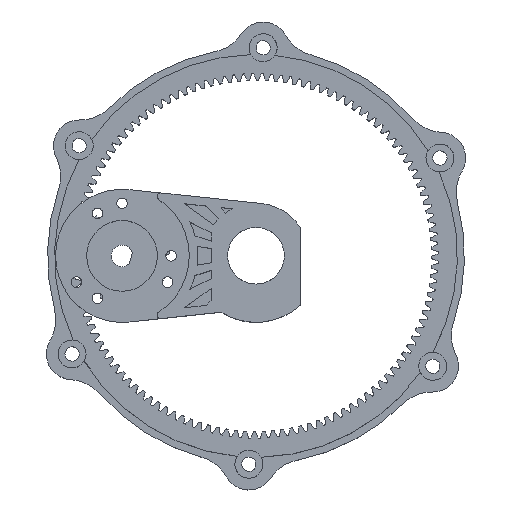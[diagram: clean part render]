
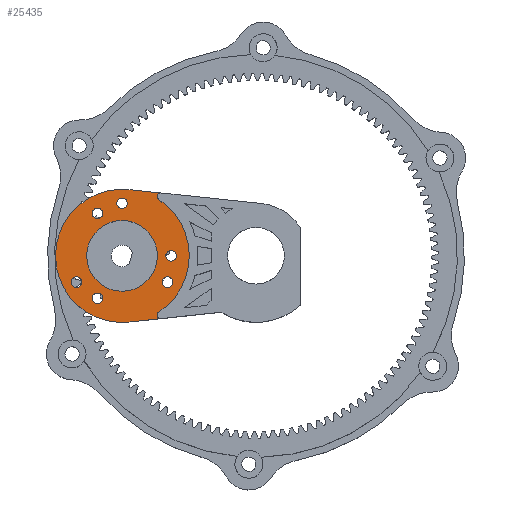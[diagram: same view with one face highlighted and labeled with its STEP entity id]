
A CAD part, top view. The second image highlights one B-rep face of the part: STEP entity #25435.
In plain terms, the highlighted planar face has unit normal (0, 0, 1) as drawn and (0, 0, -1) by its records, which use the part's own axes.
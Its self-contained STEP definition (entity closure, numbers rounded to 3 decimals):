
#2037=LINE('',#49288,#3429);
#2038=LINE('',#49291,#3430);
#3429=VECTOR('',#33060,10.);
#3430=VECTOR('',#33063,10.);
#4152=FACE_BOUND('',#8092,.T.);
#4153=FACE_BOUND('',#8093,.T.);
#4154=FACE_BOUND('',#8094,.T.);
#4155=FACE_BOUND('',#8095,.T.);
#4156=FACE_BOUND('',#8096,.T.);
#4157=FACE_BOUND('',#8097,.T.);
#4158=FACE_BOUND('',#8098,.T.);
#6724=FACE_OUTER_BOUND('',#8091,.T.);
#8091=EDGE_LOOP('',(#23947,#23948,#23949,#23950,#23951,#23952));
#8092=EDGE_LOOP('',(#23953));
#8093=EDGE_LOOP('',(#23954));
#8094=EDGE_LOOP('',(#23955));
#8095=EDGE_LOOP('',(#23956));
#8096=EDGE_LOOP('',(#23957));
#8097=EDGE_LOOP('',(#23958));
#8098=EDGE_LOOP('',(#23959));
#9443=CIRCLE('',#27531,1.);
#9445=CIRCLE('',#27534,19.2);
#9449=CIRCLE('',#27540,1.);
#9451=CIRCLE('',#27544,19.);
#9452=CIRCLE('',#27545,10.1);
#9453=CIRCLE('',#27546,1.5);
#9454=CIRCLE('',#27547,1.5);
#9455=CIRCLE('',#27548,1.5);
#9456=CIRCLE('',#27549,1.5);
#9457=CIRCLE('',#27550,1.5);
#9458=CIRCLE('',#27551,1.5);
#12083=VERTEX_POINT('',#49212);
#12084=VERTEX_POINT('',#49214);
#12086=VERTEX_POINT('',#49220);
#12092=VERTEX_POINT('',#49236);
#12098=VERTEX_POINT('',#49287);
#12099=VERTEX_POINT('',#49289);
#12100=VERTEX_POINT('',#49292);
#12101=VERTEX_POINT('',#49294);
#12102=VERTEX_POINT('',#49296);
#12103=VERTEX_POINT('',#49298);
#12104=VERTEX_POINT('',#49300);
#12105=VERTEX_POINT('',#49302);
#12106=VERTEX_POINT('',#49304);
#16039=EDGE_CURVE('',#12083,#12084,#9443,.F.);
#16043=EDGE_CURVE('',#12083,#12086,#9445,.T.);
#16051=EDGE_CURVE('',#12092,#12086,#9449,.F.);
#16058=EDGE_CURVE('',#12092,#12098,#2037,.T.);
#16059=EDGE_CURVE('',#12098,#12099,#9451,.T.);
#16060=EDGE_CURVE('',#12099,#12084,#2038,.T.);
#16061=EDGE_CURVE('',#12100,#12100,#9452,.T.);
#16062=EDGE_CURVE('',#12101,#12101,#9453,.T.);
#16063=EDGE_CURVE('',#12102,#12102,#9454,.T.);
#16064=EDGE_CURVE('',#12103,#12103,#9455,.T.);
#16065=EDGE_CURVE('',#12104,#12104,#9456,.T.);
#16066=EDGE_CURVE('',#12105,#12105,#9457,.T.);
#16067=EDGE_CURVE('',#12106,#12106,#9458,.T.);
#23947=ORIENTED_EDGE('',*,*,#16043,.T.);
#23948=ORIENTED_EDGE('',*,*,#16051,.F.);
#23949=ORIENTED_EDGE('',*,*,#16058,.T.);
#23950=ORIENTED_EDGE('',*,*,#16059,.T.);
#23951=ORIENTED_EDGE('',*,*,#16060,.T.);
#23952=ORIENTED_EDGE('',*,*,#16039,.F.);
#23953=ORIENTED_EDGE('',*,*,#16061,.T.);
#23954=ORIENTED_EDGE('',*,*,#16062,.T.);
#23955=ORIENTED_EDGE('',*,*,#16063,.T.);
#23956=ORIENTED_EDGE('',*,*,#16064,.T.);
#23957=ORIENTED_EDGE('',*,*,#16065,.T.);
#23958=ORIENTED_EDGE('',*,*,#16066,.T.);
#23959=ORIENTED_EDGE('',*,*,#16067,.T.);
#24106=PLANE('',#27543);
#25435=ADVANCED_FACE('',(#6724,#4152,#4153,#4154,#4155,#4156,#4157,#4158),
#24106,.F.);
#27531=AXIS2_PLACEMENT_3D('',#49215,#33026,#33027);
#27534=AXIS2_PLACEMENT_3D('',#49222,#33034,#33035);
#27540=AXIS2_PLACEMENT_3D('',#49238,#33050,#33051);
#27543=AXIS2_PLACEMENT_3D('',#49286,#33058,#33059);
#27544=AXIS2_PLACEMENT_3D('',#49290,#33061,#33062);
#27545=AXIS2_PLACEMENT_3D('',#49293,#33064,#33065);
#27546=AXIS2_PLACEMENT_3D('',#49295,#33066,#33067);
#27547=AXIS2_PLACEMENT_3D('',#49297,#33068,#33069);
#27548=AXIS2_PLACEMENT_3D('',#49299,#33070,#33071);
#27549=AXIS2_PLACEMENT_3D('',#49301,#33072,#33073);
#27550=AXIS2_PLACEMENT_3D('',#49303,#33074,#33075);
#27551=AXIS2_PLACEMENT_3D('',#49305,#33076,#33077);
#33026=DIRECTION('center_axis',(0.,0.,1.));
#33027=DIRECTION('ref_axis',(-0.334,-0.943,0.));
#33034=DIRECTION('center_axis',(0.,0.,-1.));
#33035=DIRECTION('ref_axis',(-0.969,0.247,0.));
#33050=DIRECTION('center_axis',(0.,0.,1.));
#33051=DIRECTION('ref_axis',(0.334,-0.943,0.));
#33058=DIRECTION('center_axis',(0.,0.,1.));
#33059=DIRECTION('ref_axis',(-1.,0.,0.));
#33060=DIRECTION('',(0.105,-0.995,0.));
#33061=DIRECTION('center_axis',(0.,0.,-1.));
#33062=DIRECTION('ref_axis',(-1.,0.,0.));
#33063=DIRECTION('',(0.105,0.995,0.));
#33064=DIRECTION('center_axis',(0.,0.,1.));
#33065=DIRECTION('ref_axis',(1.,0.,0.));
#33066=DIRECTION('center_axis',(0.,0.,1.));
#33067=DIRECTION('ref_axis',(-1.,0.,0.));
#33068=DIRECTION('center_axis',(0.,0.,1.));
#33069=DIRECTION('ref_axis',(-1.,0.,0.));
#33070=DIRECTION('center_axis',(0.,0.,1.));
#33071=DIRECTION('ref_axis',(-1.,0.,0.));
#33072=DIRECTION('center_axis',(0.,0.,1.));
#33073=DIRECTION('ref_axis',(-1.,0.,0.));
#33074=DIRECTION('center_axis',(0.,0.,1.));
#33075=DIRECTION('ref_axis',(-1.,0.,0.));
#33076=DIRECTION('center_axis',(0.,0.,1.));
#33077=DIRECTION('ref_axis',(-1.,0.,0.));
#49212=CARTESIAN_POINT('',(-16.104,10.455,31.));
#49214=CARTESIAN_POINT('',(-17.937,11.104,31.));
#49215=CARTESIAN_POINT('Origin',(-16.943,10.999,31.));
#49220=CARTESIAN_POINT('',(16.104,10.455,31.));
#49222=CARTESIAN_POINT('Origin',(0.,0.,31.));
#49236=CARTESIAN_POINT('',(17.937,11.104,31.));
#49238=CARTESIAN_POINT('Origin',(16.943,10.999,31.));
#49286=CARTESIAN_POINT('Origin',(0.,27.618,
31.));
#49287=CARTESIAN_POINT('',(18.896,1.987,31.));
#49288=CARTESIAN_POINT('',(14.918,39.819,31.));
#49289=CARTESIAN_POINT('',(-18.896,1.987,31.));
#49290=CARTESIAN_POINT('Origin',(0.,0.,31.));
#49291=CARTESIAN_POINT('',(-14.918,39.819,31.));
#49292=CARTESIAN_POINT('',(-10.1,0.,31.));
#49293=CARTESIAN_POINT('Origin',(0.,0.,31.));
#49294=CARTESIAN_POINT('',(13.624,-7.,31.));
#49295=CARTESIAN_POINT('Origin',(12.124,-7.,31.));
#49296=CARTESIAN_POINT('',(-10.624,-7.,31.));
#49297=CARTESIAN_POINT('Origin',(-12.124,-7.,31.));
#49298=CARTESIAN_POINT('',(-6.,12.99,31.));
#49299=CARTESIAN_POINT('Origin',(-7.5,12.99,31.));
#49300=CARTESIAN_POINT('',(1.5,14.,31.));
#49301=CARTESIAN_POINT('Origin',(0.,14.,31.));
#49302=CARTESIAN_POINT('',(-6.,-12.99,31.));
#49303=CARTESIAN_POINT('Origin',(-7.5,-12.99,31.));
#49304=CARTESIAN_POINT('',(16.5,0.,31.));
#49305=CARTESIAN_POINT('Origin',(15.,0.,31.));
